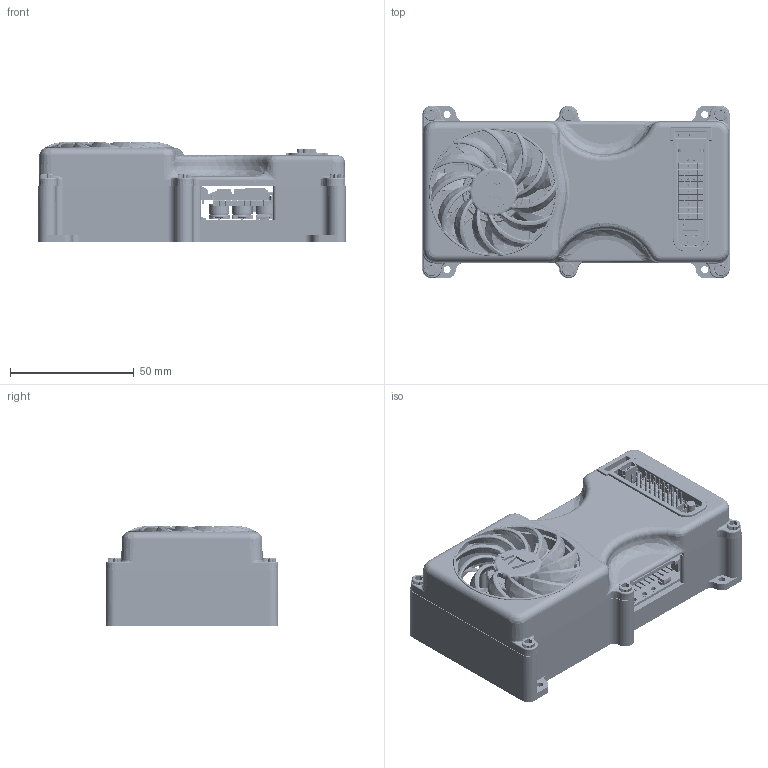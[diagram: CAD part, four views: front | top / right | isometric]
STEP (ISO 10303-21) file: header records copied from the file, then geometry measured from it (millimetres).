
FILE_DESCRIPTION(/* description */ (''),/* implementation_level */ '2;1');
FILE_NAME(/* name */ 'BGC_Pro_full_assembly_3Dmodel.step',/* time_stamp */ '2025-11-10T15:17:40+03:00',/* author */ (''),/* organization */ (''),/* preprocessor_version */ 'ST-DEVELOPER v20.1',/* originating_system */ 'Autodesk Translation Framework v14.17.0.0',/* authorisation */ '');
FILE_SCHEMA (('AUTOMOTIVE_DESIGN { 1 0 10303 214 3 1 1 }'));
Products named in the file (192): BGC_Pro_full_assembly; BGC_Pro_cover_extruded_production; PCB; Board; D5; User_Library-DO-214AA_SMB; R20; CR1005-0402; U2; SOIC-8-1; C75; C74; C73; C72; Q3; Q1; DirectFET_MX; D4; User_Library-SOD-123FL_CASE_498; U9; 6104057024; Extruded; R19; R18; C70; C69; C68; C67; C66; C17; CAPC3225X105N_EIA_1210; C8; C7; L2; User_Library-Chip_Inductor; D3; User_Library-DO-214AA_SMB_(1); C44; C43; C42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
Assembly tree (324 placements, depth 5):
  BGC_Pro_full_assembly
    BGC_Pro_cover_extruded_production
    PCB
      Board
      D5
        User_Library-DO-214AA_SMB
      R20
        CR1005-0402
      U2
        SOIC-8-1
      C75
        CAPC1608X___
      C74
        CAPC1608X___
      C73
        CAPC1608X___
      C72
        CAPC1608X___
      Q3
        DirectFET_MX
      Q1
        DirectFET_MX
      D4
        User_Library-SOD-123FL_CASE_498
      U9
        6104057024
          Extruded
      R19
        Resistors_0603
      R18
        Resistors_0603
      C70
        CAPC3225X105N_EIA_1210
      C69
        CAPC3225X105N_EIA_1210
      C68
        CAPC2012X70N_EIA_0805
      C67
        CAPC2012X70N_EIA_0805
      C66
        CAPC3225X105N_EIA_1210
      C17
        CAPC3225X105N_EIA_1210
      C8
        1206_SMD_Capacitor
      C7
        1206_SMD_Capacitor
      L2
        User_Library-Chip_Inductor
      D3
        User_Library-DO-214AA_SMB_(1)
      C44
        1206_SMD_Capacitor
      C43
        1206_SMD_Capacitor
      C42
        1206_SMD_Capacitor
      C41
        1206_SMD_Capacitor
      C40
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Bounding box: 124.2 x 69.6 x 40.47 mm (x, y, z)
Volume: 105982.4 mm3; surface area: 121904.6 mm2
Topology: 514 solids, 4604 shells, 32705 faces, 92736 edges, 65292 vertices
Faces by surface type: plane 20589, cylinder 7914, bspline 2345, torus 1087, sphere 502, cone 268
Full cylindrical faces by diameter (mm): 0.15 x180, 0.314 x10, 0.4 x3, 0.5 x2, 0.65 x5, 0.7 x3, 0.8 x2, 0.9 x53, 1 x35, 1.16 x7, 1.2 x14, 1.36 x8, 1.96 x7, 2 x13, 2.1 x2, 2.12 x7, 2.2 x26, 2.8 x16, 3 x20, 3.2 x20, 3.4 x32, 3.5 x1, 3.7 x4, 3.88 x7, 4 x108, 4.04 x7, 4.84 x7, 5 x19, 5.6 x7, 6 x4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
Entity records: 901522 total; most frequent: CARTESIAN_POINT 294626, DIRECTION 114987, ORIENTED_EDGE 113686, EDGE_CURVE 66595, VERTEX_POINT 49738, LINE 46237, VECTOR 46237, AXIS2_PLACEMENT_3D 34375
